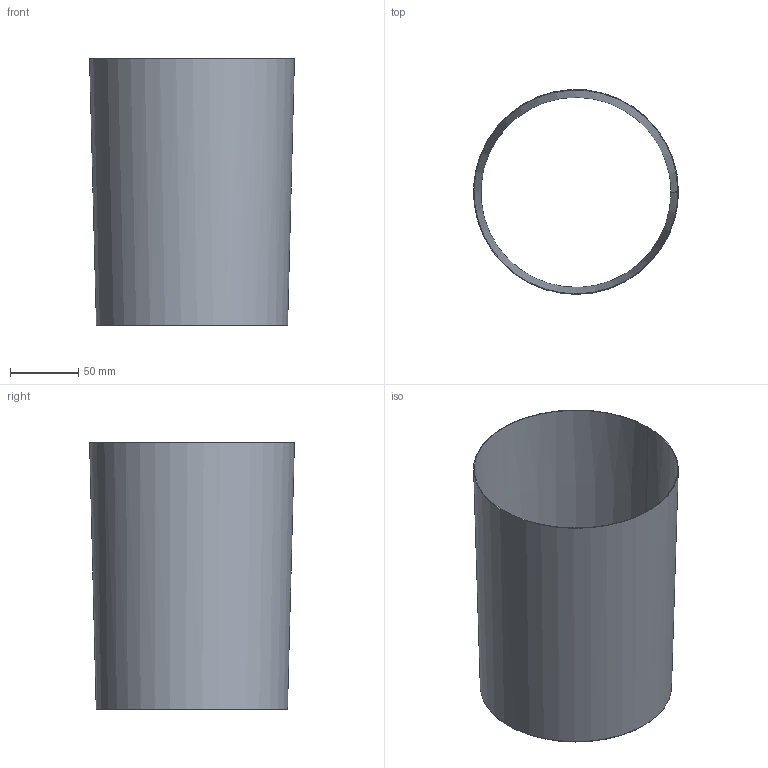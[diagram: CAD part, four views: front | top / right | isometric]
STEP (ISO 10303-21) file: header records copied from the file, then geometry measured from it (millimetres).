
FILE_DESCRIPTION (( 'STEP AP214' ), '1' );
FILE_NAME ('Flexcover.STEP', '2025-09-25T06:33:18', ( '' ), ( '' ), 'SwSTEP 2.0', 'SolidWorks 2016', '' );
FILE_SCHEMA (( 'AUTOMOTIVE_DESIGN' ));
Length unit declared in the file: millimetre
Products named in the file (1): Flexcover
Bounding box: 149.91 x 149.87 x 195.01 mm (x, y, z)
Volume: 39830.4 mm3; surface area: 177553.5 mm2
Topology: 1 solids, 1 shells, 6 faces, 12 edges, 8 vertices
Faces by surface type: bspline 6
Entity records: 1156 total; most frequent: CARTESIAN_POINT 1035, ORIENTED_EDGE 24, B_SPLINE_CURVE_WITH_KNOTS 12, EDGE_CURVE 12, VERTEX_POINT 8, EDGE_LOOP 6, FACE_OUTER_BOUND 6, B_SPLINE_SURFACE_WITH_KNOTS 6
